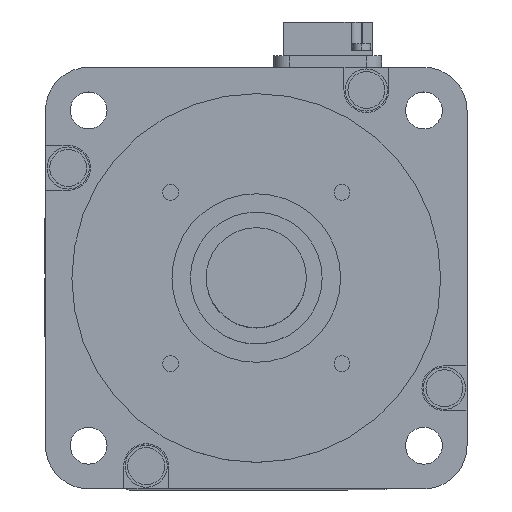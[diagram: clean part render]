
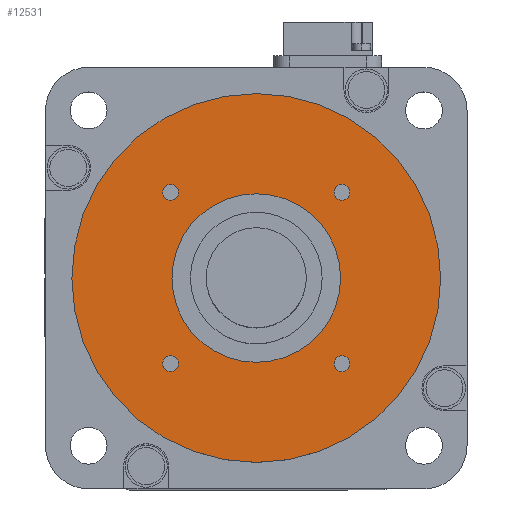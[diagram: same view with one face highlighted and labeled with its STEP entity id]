
A CAD part, top view. The second image highlights one B-rep face of the part: STEP entity #12531.
In plain terms, the highlighted planar face has unit normal (0, 0, 1).
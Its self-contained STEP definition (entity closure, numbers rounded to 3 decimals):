
#478 = ORIENTED_EDGE ( 'NONE', *, *, #12592, .F. ) ;
#514 = ORIENTED_EDGE ( 'NONE', *, *, #515, .F. ) ;
#515 = EDGE_CURVE ( 'NONE', #3349, #3299, #4346, .T. ) ;
#520 = ORIENTED_EDGE ( 'NONE', *, *, #3298, .F. ) ;
#523 = EDGE_LOOP ( 'NONE', ( #520, #514 ) ) ;
#526 = ORIENTED_EDGE ( 'NONE', *, *, #3369, .T. ) ;
#544 = EDGE_CURVE ( 'NONE', #3353, #3350, #4368, .T. ) ;
#2694 = VERTEX_POINT ( 'NONE', #7777 ) ;
#2811 = VERTEX_POINT ( 'NONE', #8049 ) ;
#2816 = VERTEX_POINT ( 'NONE', #8043 ) ;
#2817 = EDGE_CURVE ( 'NONE', #2816, #2811, #8042, .T. ) ;
#2819 = EDGE_CURVE ( 'NONE', #2848, #2820, #8037, .T. ) ;
#2820 = VERTEX_POINT ( 'NONE', #8032 ) ;
#2848 = VERTEX_POINT ( 'NONE', #8112 ) ;
#2849 = EDGE_CURVE ( 'NONE', #2694, #2850, #8111, .T. ) ;
#2850 = VERTEX_POINT ( 'NONE', #8106 ) ;
#2900 = VERTEX_POINT ( 'NONE', #8193 ) ;
#2902 = EDGE_CURVE ( 'NONE', #2900, #2903, #8192, .T. ) ;
#2903 = VERTEX_POINT ( 'NONE', #8187 ) ;
#3298 = EDGE_CURVE ( 'NONE', #3299, #3349, #8961, .T. ) ;
#3299 = VERTEX_POINT ( 'NONE', #8956 ) ;
#3349 = VERTEX_POINT ( 'NONE', #9060 ) ;
#3350 = VERTEX_POINT ( 'NONE', #9059 ) ;
#3353 = VERTEX_POINT ( 'NONE', #9054 ) ;
#3369 = EDGE_CURVE ( 'NONE', #3350, #3353, #9090, .T. ) ;
#4343 = DIRECTION ( 'NONE',  ( -1., 0., 0. ) ) ;
#4344 = DIRECTION ( 'NONE',  ( 0., 0., -1. ) ) ;
#4345 = AXIS2_PLACEMENT_3D ( 'NONE', #4351, #4344, #4343 ) ;
#4346 = CIRCLE ( 'NONE', #4345, 35. ) ;
#4351 = CARTESIAN_POINT ( 'NONE',  ( 0., 0., 3. ) ) ;
#4364 = DIRECTION ( 'NONE',  ( -1., 0., 0. ) ) ;
#4365 = DIRECTION ( 'NONE',  ( 0., 0., -1. ) ) ;
#4366 = CARTESIAN_POINT ( 'NONE',  ( 0., 0., 3. ) ) ;
#4367 = AXIS2_PLACEMENT_3D ( 'NONE', #4366, #4365, #4364 ) ;
#4368 = CIRCLE ( 'NONE', #4367, 16. ) ;
#7777 = CARTESIAN_POINT ( 'NONE',  ( 14.763, -16.263, 3. ) ) ;
#8032 = CARTESIAN_POINT ( 'NONE',  ( 17.763, 16.263, 3. ) ) ;
#8033 = DIRECTION ( 'NONE',  ( 1., 0., 0. ) ) ;
#8034 = DIRECTION ( 'NONE',  ( 0., 0., 1. ) ) ;
#8035 = CARTESIAN_POINT ( 'NONE',  ( 16.263, 16.263, 3. ) ) ;
#8036 = AXIS2_PLACEMENT_3D ( 'NONE', #8035, #8034, #8033 ) ;
#8037 = CIRCLE ( 'NONE', #8036, 1.5 ) ;
#8038 = DIRECTION ( 'NONE',  ( -1., 0., 0. ) ) ;
#8039 = DIRECTION ( 'NONE',  ( 0., 0., 1. ) ) ;
#8040 = CARTESIAN_POINT ( 'NONE',  ( -16.263, -16.263, 3. ) ) ;
#8041 = AXIS2_PLACEMENT_3D ( 'NONE', #8040, #8039, #8038 ) ;
#8042 = CIRCLE ( 'NONE', #8041, 1.5 ) ;
#8043 = CARTESIAN_POINT ( 'NONE',  ( -17.763, -16.263, 3. ) ) ;
#8049 = CARTESIAN_POINT ( 'NONE',  ( -14.763, -16.263, 3. ) ) ;
#8106 = CARTESIAN_POINT ( 'NONE',  ( 17.763, -16.263, 3. ) ) ;
#8107 = DIRECTION ( 'NONE',  ( 0., -1., 0. ) ) ;
#8108 = DIRECTION ( 'NONE',  ( 0., 0., 1. ) ) ;
#8109 = CARTESIAN_POINT ( 'NONE',  ( 16.263, -16.263, 3. ) ) ;
#8110 = AXIS2_PLACEMENT_3D ( 'NONE', #8109, #8108, #8107 ) ;
#8111 = CIRCLE ( 'NONE', #8110, 1.5 ) ;
#8112 = CARTESIAN_POINT ( 'NONE',  ( 14.763, 16.263, 3. ) ) ;
#8187 = CARTESIAN_POINT ( 'NONE',  ( -14.763, 16.263, 3. ) ) ;
#8188 = DIRECTION ( 'NONE',  ( 0., 1., 0. ) ) ;
#8189 = DIRECTION ( 'NONE',  ( 0., 0., 1. ) ) ;
#8190 = CARTESIAN_POINT ( 'NONE',  ( -16.263, 16.263, 3. ) ) ;
#8191 = AXIS2_PLACEMENT_3D ( 'NONE', #8190, #8189, #8188 ) ;
#8192 = CIRCLE ( 'NONE', #8191, 1.5 ) ;
#8193 = CARTESIAN_POINT ( 'NONE',  ( -17.763, 16.263, 3. ) ) ;
#8956 = CARTESIAN_POINT ( 'NONE',  ( -35., 0., 3. ) ) ;
#8957 = DIRECTION ( 'NONE',  ( -1., 0., 0. ) ) ;
#8958 = DIRECTION ( 'NONE',  ( 0., 0., -1. ) ) ;
#8959 = CARTESIAN_POINT ( 'NONE',  ( 0., 0., 3. ) ) ;
#8960 = AXIS2_PLACEMENT_3D ( 'NONE', #8959, #8958, #8957 ) ;
#8961 = CIRCLE ( 'NONE', #8960, 35. ) ;
#9054 = CARTESIAN_POINT ( 'NONE',  ( -16., 0., 3. ) ) ;
#9059 = CARTESIAN_POINT ( 'NONE',  ( 16., 0., 3. ) ) ;
#9060 = CARTESIAN_POINT ( 'NONE',  ( 35., 0., 3. ) ) ;
#9086 = DIRECTION ( 'NONE',  ( -1., 0., 0. ) ) ;
#9087 = DIRECTION ( 'NONE',  ( 0., 0., -1. ) ) ;
#9088 = CARTESIAN_POINT ( 'NONE',  ( 0., 0., 3. ) ) ;
#9089 = AXIS2_PLACEMENT_3D ( 'NONE', #9088, #9087, #9086 ) ;
#9090 = CIRCLE ( 'NONE', #9089, 16. ) ;
#10866 = DIRECTION ( 'NONE',  ( 1., 0., 0. ) ) ;
#10867 = DIRECTION ( 'NONE',  ( 0., 0., 1. ) ) ;
#10868 = CARTESIAN_POINT ( 'NONE',  ( 0., 35., 3. ) ) ;
#10869 = AXIS2_PLACEMENT_3D ( 'NONE', #10868, #10867, #10866 ) ;
#10870 = PLANE ( 'NONE',  #10869 ) ;
#10871 = FACE_OUTER_BOUND ( 'NONE', #523, .T. ) ;
#10872 = FACE_BOUND ( 'NONE', #12557, .T. ) ;
#10873 = FACE_BOUND ( 'NONE', #12574, .T. ) ;
#10874 = FACE_BOUND ( 'NONE', #12586, .T. ) ;
#10875 = FACE_BOUND ( 'NONE', #12467, .T. ) ;
#10876 = FACE_BOUND ( 'NONE', #12600, .T. ) ;
#10982 = DIRECTION ( 'NONE',  ( 1., 0., 0. ) ) ;
#10983 = DIRECTION ( 'NONE',  ( 0., 0., 1. ) ) ;
#10984 = CARTESIAN_POINT ( 'NONE',  ( 16.263, 16.263, 3. ) ) ;
#10985 = AXIS2_PLACEMENT_3D ( 'NONE', #10984, #10983, #10982 ) ;
#10986 = CIRCLE ( 'NONE', #10985, 1.5 ) ;
#10990 = DIRECTION ( 'NONE',  ( 0., -1., 0. ) ) ;
#10991 = DIRECTION ( 'NONE',  ( 0., 0., 1. ) ) ;
#10992 = CARTESIAN_POINT ( 'NONE',  ( 16.263, -16.263, 3. ) ) ;
#10993 = AXIS2_PLACEMENT_3D ( 'NONE', #10992, #10991, #10990 ) ;
#10994 = CIRCLE ( 'NONE', #10993, 1.5 ) ;
#10997 = DIRECTION ( 'NONE',  ( -1., 0., 0. ) ) ;
#10998 = DIRECTION ( 'NONE',  ( 0., 0., 1. ) ) ;
#10999 = AXIS2_PLACEMENT_3D ( 'NONE', #11005, #10998, #10997 ) ;
#11000 = CIRCLE ( 'NONE', #10999, 1.5 ) ;
#11005 = CARTESIAN_POINT ( 'NONE',  ( -16.263, -16.263, 3. ) ) ;
#11018 = DIRECTION ( 'NONE',  ( 0., 1., 0. ) ) ;
#11019 = DIRECTION ( 'NONE',  ( 0., 0., 1. ) ) ;
#11020 = CARTESIAN_POINT ( 'NONE',  ( -16.263, 16.263, 3. ) ) ;
#11021 = AXIS2_PLACEMENT_3D ( 'NONE', #11020, #11019, #11018 ) ;
#11022 = CIRCLE ( 'NONE', #11021, 1.5 ) ;
#12467 = EDGE_LOOP ( 'NONE', ( #478, #12593 ) ) ;
#12531 = ADVANCED_FACE ( 'NONE', ( #10876, #10875, #10874, #10873, #10872, #10871 ), #10870, .T. ) ;
#12550 = ORIENTED_EDGE ( 'NONE', *, *, #544, .T. ) ;
#12557 = EDGE_LOOP ( 'NONE', ( #12550, #526 ) ) ;
#12560 = ORIENTED_EDGE ( 'NONE', *, *, #2819, .F. ) ;
#12567 = EDGE_CURVE ( 'NONE', #2820, #2848, #10986, .T. ) ;
#12568 = ORIENTED_EDGE ( 'NONE', *, *, #12567, .F. ) ;
#12574 = EDGE_LOOP ( 'NONE', ( #12568, #12560 ) ) ;
#12582 = ORIENTED_EDGE ( 'NONE', *, *, #12583, .F. ) ;
#12583 = EDGE_CURVE ( 'NONE', #2903, #2900, #11022, .T. ) ;
#12585 = ORIENTED_EDGE ( 'NONE', *, *, #2902, .F. ) ;
#12586 = EDGE_LOOP ( 'NONE', ( #12582, #12585 ) ) ;
#12592 = EDGE_CURVE ( 'NONE', #2811, #2816, #11000, .T. ) ;
#12593 = ORIENTED_EDGE ( 'NONE', *, *, #2817, .F. ) ;
#12595 = ORIENTED_EDGE ( 'NONE', *, *, #2849, .F. ) ;
#12596 = ORIENTED_EDGE ( 'NONE', *, *, #12599, .F. ) ;
#12599 = EDGE_CURVE ( 'NONE', #2850, #2694, #10994, .T. ) ;
#12600 = EDGE_LOOP ( 'NONE', ( #12596, #12595 ) ) ;
